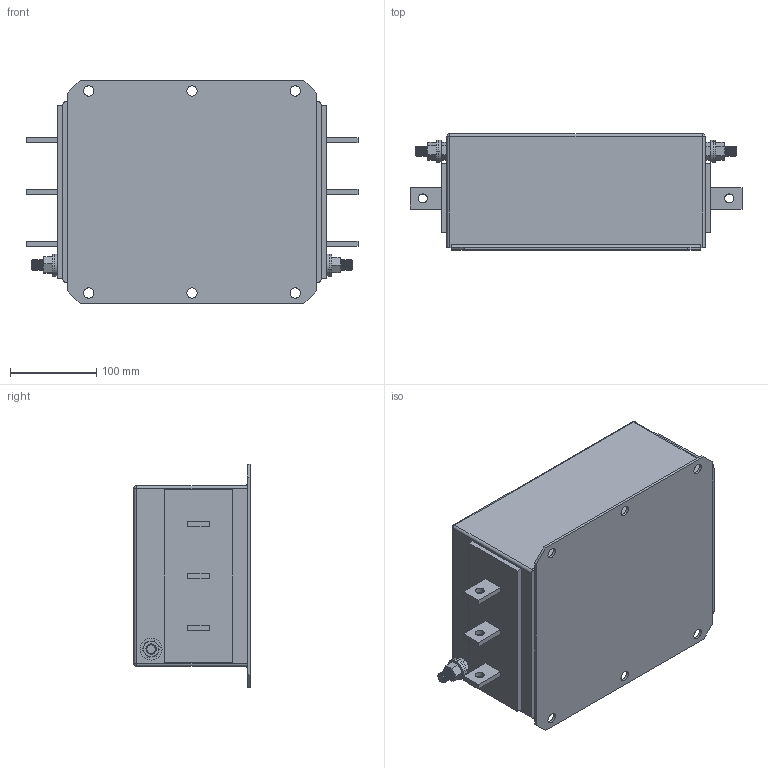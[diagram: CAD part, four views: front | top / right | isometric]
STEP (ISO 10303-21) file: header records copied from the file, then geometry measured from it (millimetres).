
FILE_DESCRIPTION (( 'STEP AP214' ), '1' );
FILE_NAME ('NF-300-EHC.STEP', '2026-09-16T08:09:28', ( '' ), ( '' ), 'SwSTEP 2.0', 'SolidWorks 2025', '' );
FILE_SCHEMA (( 'AUTOMOTIVE_DESIGN' ));
Length unit declared in the file: millimetre
Products named in the file (7): Formed Hex Screw_AM_B18.2.3.2M - Formed hex screw, M12 x 1.75 x 30 --30CS; Hex Nut Style 1_AM_B18.2.4.1M - Hex nut, Style 1,  M12 x 1.75 --D-N; Flat Washer Narrow_AM_B18.22M - Plain washer, 12 mm, narrow; M12x30 Earth post; NF-300-EHC_1; NF-300-EHC; UB-NF-300-EHC
Assembly tree (8 placements, depth 4):
  NF-300-EHC
    UB-NF-300-EHC
      M12x30 Earth post  x2
        Hex Nut Style 1_AM_B18.2.4.1M - Hex nut, Style 1,  M12 x 1.75 --D-N
        Formed Hex Screw_AM_B18.2.3.2M - Formed hex screw, M12 x 1.75 x 30 --30CS
        Flat Washer Narrow_AM_B18.22M - Plain washer, 12 mm, narrow
      NF-300-EHC_1
Bounding box: 386 x 135 x 260 mm (x, y, z)
Volume: 8743064.3 mm3; surface area: 332970 mm2
Topology: 9 solids, 9 shells, 450 faces, 1108 edges, 688 vertices
Faces by surface type: cone 196, cylinder 144, plane 106, sphere 4
Entity records: 9132 total; most frequent: CARTESIAN_POINT 2189, DIRECTION 1514, ORIENTED_EDGE 1356, EDGE_CURVE 678, AXIS2_PLACEMENT_3D 597, VERTEX_POINT 426, VECTOR 320, LINE 320
